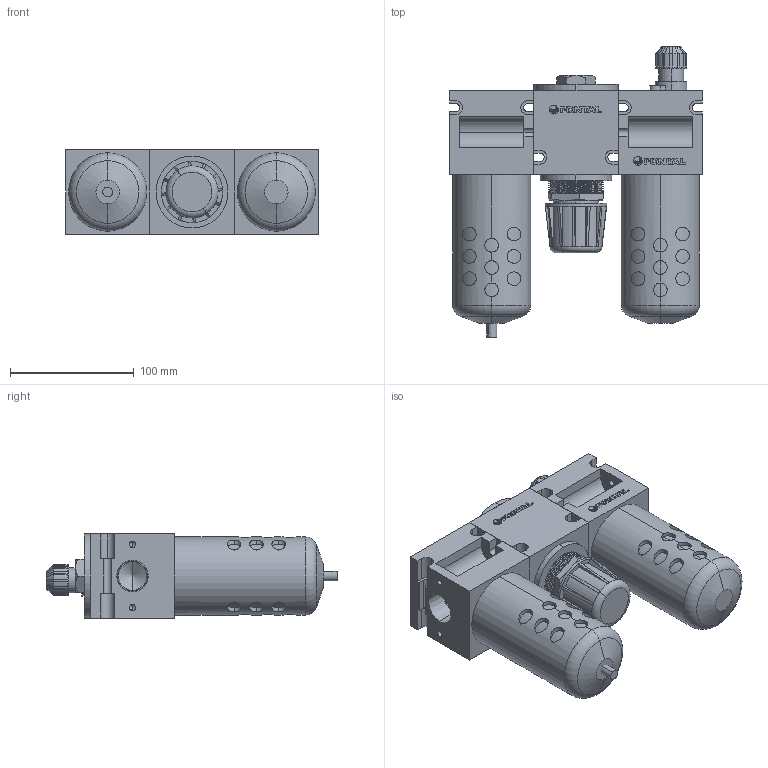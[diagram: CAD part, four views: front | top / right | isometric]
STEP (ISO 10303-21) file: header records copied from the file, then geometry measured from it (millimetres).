
FILE_DESCRIPTION (( 'STEP AP203' ), '1' );
FILE_NAME ('C105##-06#Y##.STEP', '2016-02-03T08:34:23', ( '' ), ( '' ), 'SwSTEP 2.0', 'SolidWorks 2014', '' );
FILE_SCHEMA (( 'CONFIG_CONTROL_DESIGN' ));
Length unit declared in the file: millimetre
Products named in the file (19): L508-5; F105-2; R105#-06##; R105-2; R105-6; R010-4; L45-2; L45-1; F105=06; F105-06#Y#; R105-5; C105##-06#Y##; R105-06; R105-3; L105-06#; R105-4; F105-MARK; F105-06
Assembly tree (22 placements, depth 4):
  C105##-06#Y##
    F105-06#Y#
      F105-06
      F105-2
      (unnamed)
      F105-MARK
    R105#-06##
      R105-06
      R105-2
      R105-3
      R010-4
      R105-4
      R105-5
      R105-6
      F105-MARK
    L105-06#
      F105=06
        F105-06
        F105-2
        F105-MARK
      L45-2
      L508-5
      L45-1
Bounding box: 204 x 234 x 68.4 mm (x, y, z)
Volume: 1575551 mm3; surface area: 215757.4 mm2
Topology: 36 solids, 36 shells, 895 faces, 2296 edges, 1497 vertices
Faces by surface type: plane 491, cylinder 314, cone 58, bspline 26, torus 6
Entity records: 23177 total; most frequent: CARTESIAN_POINT 7408, ORIENTED_EDGE 2896, DIRECTION 2746, EDGE_CURVE 1448, VERTEX_POINT 947, AXIS2_PLACEMENT_3D 920, VECTOR 906, LINE 906
